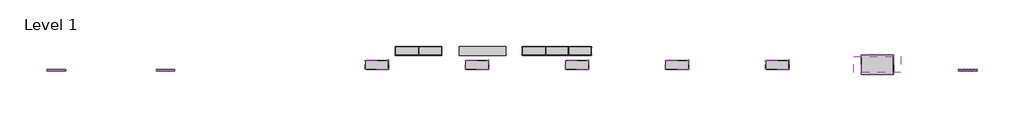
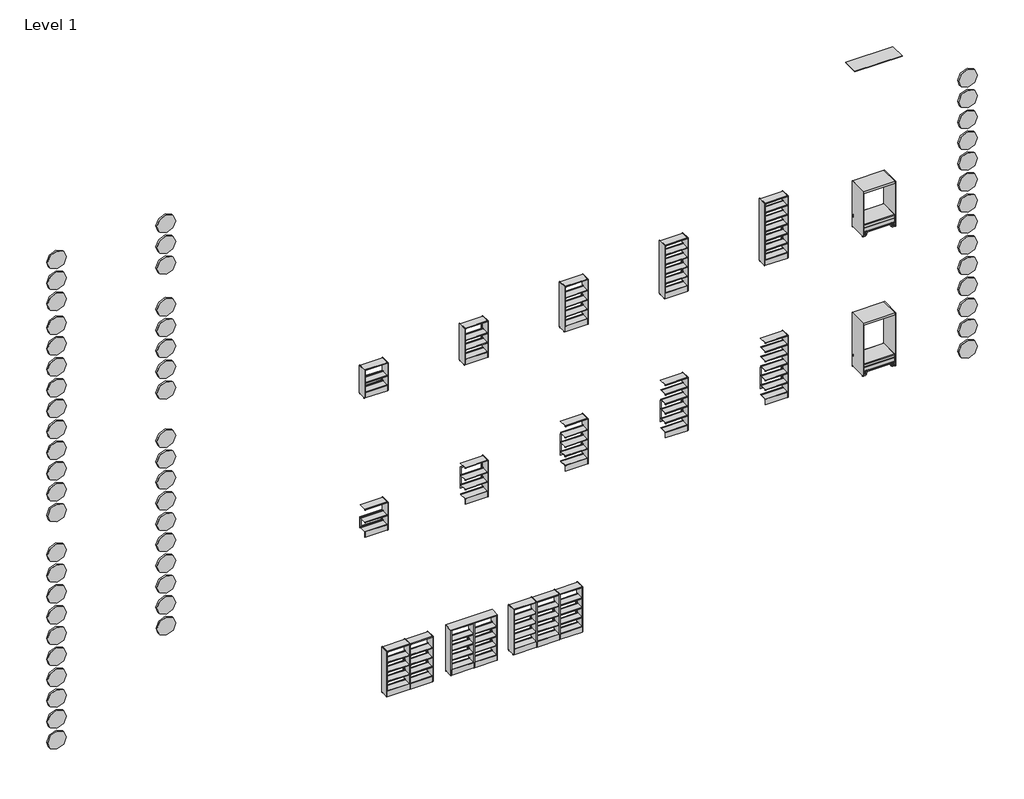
# One storey: 55 proxies, 21 furniture elements.
"""IFC4 building model written with IfcOpenShell, lengths in millimetres."""

from ifc_helpers import new_model, si_unit, origin, place, context, project, spatial, transform, mapped, element, save
from components import materialmodel_materialmodel_37012b21, furniture_c105972a, furniture_9ea05a3f, furniture_750x295_5d69b9cf, furniture_750x295_07cc5ffa, furniture_750x295_e54d80aa, furniture_750x295_18b06e9d, furniture_750x295_3e7eba69, furniture_750x295_7441573b, furniture_750x295_8a70aaf8, furniture_750x295_d1ab3b45, furniture_750x295_23b6f23a, furniture_750x295_b42d7867, bk_library_sitting_cave_to_shelf_1530_a43be609, bk_library_sitting_cave_to_shelf_1800_9197c93b

model = new_model("IFC4")

# Units and contexts
model_context = context("Model", 3, world=origin())
ifc_project = project(units=[si_unit("LENGTHUNIT", "METRE", prefix="MILLI")], contexts=[model_context])

# Site, building, storey
site = spatial("IfcSite", under=ifc_project)
building = spatial("IfcBuilding", under=site)
storey = spatial("IfcBuildingStorey", under=building, Name="Level 1", Elevation=0.0)

# Proxies
placement = place(None, origin())
materialmodel_materialmodel_shape = materialmodel_materialmodel_37012b21(model_context)
element("IfcBuildingElementProxy", 1, Name="MaterialModel : MaterialModel", ObjectType="MaterialModel : MaterialModel", at=placement, inside=storey, context=model_context, shape_type="MappedRepresentation", body=[
    mapped(materialmodel_materialmodel_shape, transform((-18567.0147555, 6390.3767321, 8420.7797695), x_axis=(1.0, 0.0, 0.0), y_axis=(0.0, 1.0, 0.0), z_axis=(0.0, 0.0, 1.0))),
])
element("IfcBuildingElementProxy", 2, Name="MaterialModel : MaterialModel", ObjectType="MaterialModel : MaterialModel", at=placement, inside=storey, context=model_context, shape_type="MappedRepresentation", body=[
    mapped(materialmodel_materialmodel_shape, transform((-18567.0147555, 6390.3767321, 9123.0950226), x_axis=(1.0, 0.0, 0.0), y_axis=(0.0, 1.0, 0.0), z_axis=(0.0, 0.0, 1.0))),
])
element("IfcBuildingElementProxy", 3, Name="MaterialModel : MaterialModel", ObjectType="MaterialModel : MaterialModel", at=placement, inside=storey, context=model_context, shape_type="MappedRepresentation", body=[
    mapped(materialmodel_materialmodel_shape, transform((-18567.0147555, 6390.3767321, 7718.4645164), x_axis=(1.0, 0.0, 0.0), y_axis=(0.0, 1.0, 0.0), z_axis=(0.0, 0.0, 1.0))),
])
element("IfcBuildingElementProxy", 4, Name="MaterialModel : MaterialModel", ObjectType="MaterialModel : MaterialModel", at=placement, inside=storey, context=model_context, shape_type="MappedRepresentation", body=[
    mapped(materialmodel_materialmodel_shape, transform((-18567.0147555, 6390.3767321, 6313.8340103), x_axis=(1.0, 0.0, 0.0), y_axis=(0.0, 1.0, 0.0), z_axis=(0.0, 0.0, 1.0))),
])
element("IfcBuildingElementProxy", 5, Name="MaterialModel : MaterialModel", ObjectType="MaterialModel : MaterialModel", at=placement, inside=storey, context=model_context, shape_type="MappedRepresentation", body=[
    mapped(materialmodel_materialmodel_shape, transform((-18567.0147555, 6390.3767321, 5611.5187572), x_axis=(1.0, 0.0, 0.0), y_axis=(0.0, 1.0, 0.0), z_axis=(0.0, 0.0, 1.0))),
])
element("IfcBuildingElementProxy", 6, Name="MaterialModel : MaterialModel", ObjectType="MaterialModel : MaterialModel", at=placement, inside=storey, context=model_context, shape_type="MappedRepresentation", body=[
    mapped(materialmodel_materialmodel_shape, transform((-18567.0147555, 6390.3767321, 4909.2035041), x_axis=(1.0, 0.0, 0.0), y_axis=(0.0, 1.0, 0.0), z_axis=(0.0, 0.0, 1.0))),
])
element("IfcBuildingElementProxy", 7, Name="MaterialModel : MaterialModel", ObjectType="MaterialModel : MaterialModel", at=placement, inside=storey, context=model_context, shape_type="MappedRepresentation", body=[
    mapped(materialmodel_materialmodel_shape, transform((-18567.0147555, 6390.3767321, 4206.888251), x_axis=(1.0, 0.0, 0.0), y_axis=(0.0, 1.0, 0.0), z_axis=(0.0, 0.0, 1.0))),
])
element("IfcBuildingElementProxy", 8, Name="MaterialModel : MaterialModel", ObjectType="MaterialModel : MaterialModel", at=placement, inside=storey, context=model_context, shape_type="MappedRepresentation", body=[
    mapped(materialmodel_materialmodel_shape, transform((-18567.0147555, 6390.3767321, 3504.5729979), x_axis=(1.0, 0.0, 0.0), y_axis=(0.0, 1.0, 0.0), z_axis=(0.0, 0.0, 1.0))),
])
element("IfcBuildingElementProxy", 9, Name="MaterialModel : MaterialModel", ObjectType="MaterialModel : MaterialModel", at=placement, inside=storey, context=model_context, shape_type="MappedRepresentation", body=[
    mapped(materialmodel_materialmodel_shape, transform((-18567.0147555, 6390.3767321, 1880.2904747), x_axis=(1.0, 0.0, 0.0), y_axis=(0.0, 1.0, 0.0), z_axis=(0.0, 0.0, 1.0))),
])
element("IfcBuildingElementProxy", 10, Name="MaterialModel : MaterialModel", ObjectType="MaterialModel : MaterialModel", at=placement, inside=storey, context=model_context, shape_type="MappedRepresentation", body=[
    mapped(materialmodel_materialmodel_shape, transform((-18567.0147555, 6390.3767321, 475.6599685), x_axis=(1.0, 0.0, 0.0), y_axis=(0.0, 1.0, 0.0), z_axis=(0.0, 0.0, 1.0))),
])
element("IfcBuildingElementProxy", 11, Name="MaterialModel : MaterialModel", ObjectType="MaterialModel : MaterialModel", at=placement, inside=storey, context=model_context, shape_type="MappedRepresentation", body=[
    mapped(materialmodel_materialmodel_shape, transform((-18567.0147555, 6390.3767321, 1177.9752216), x_axis=(1.0, 0.0, 0.0), y_axis=(0.0, 1.0, 0.0), z_axis=(0.0, 0.0, 1.0))),
])
element("IfcBuildingElementProxy", 12, Name="MaterialModel : MaterialModel", ObjectType="MaterialModel : MaterialModel", at=placement, inside=storey, context=model_context, shape_type="MappedRepresentation", body=[
    mapped(materialmodel_materialmodel_shape, transform((-18567.0147555, 6390.3767321, -928.9705377), x_axis=(1.0, 0.0, 0.0), y_axis=(0.0, 1.0, 0.0), z_axis=(0.0, 0.0, 1.0))),
])
element("IfcBuildingElementProxy", 13, Name="MaterialModel : MaterialModel", ObjectType="MaterialModel : MaterialModel", at=placement, inside=storey, context=model_context, shape_type="MappedRepresentation", body=[
    mapped(materialmodel_materialmodel_shape, transform((-18567.0147555, 6390.3767321, -226.6552846), x_axis=(1.0, 0.0, 0.0), y_axis=(0.0, 1.0, 0.0), z_axis=(0.0, 0.0, 1.0))),
])
element("IfcBuildingElementProxy", 14, Name="MaterialModel : MaterialModel", ObjectType="MaterialModel : MaterialModel", at=placement, inside=storey, context=model_context, shape_type="MappedRepresentation", body=[
    mapped(materialmodel_materialmodel_shape, transform((-18567.0147555, 6390.3767321, -2333.6010438), x_axis=(1.0, 0.0, 0.0), y_axis=(0.0, 1.0, 0.0), z_axis=(0.0, 0.0, 1.0))),
])
element("IfcBuildingElementProxy", 15, Name="MaterialModel : MaterialModel", ObjectType="MaterialModel : MaterialModel", at=placement, inside=storey, context=model_context, shape_type="MappedRepresentation", body=[
    mapped(materialmodel_materialmodel_shape, transform((-18567.0147555, 6390.3767321, -1631.2857907), x_axis=(1.0, 0.0, 0.0), y_axis=(0.0, 1.0, 0.0), z_axis=(0.0, 0.0, 1.0))),
])
element("IfcBuildingElementProxy", 16, Name="MaterialModel : MaterialModel", ObjectType="MaterialModel : MaterialModel", at=placement, inside=storey, context=model_context, shape_type="MappedRepresentation", body=[
    mapped(materialmodel_materialmodel_shape, transform((-18567.0147555, 6390.3767321, -3738.23155), x_axis=(1.0, 0.0, 0.0), y_axis=(0.0, 1.0, 0.0), z_axis=(0.0, 0.0, 1.0))),
])
element("IfcBuildingElementProxy", 17, Name="MaterialModel : MaterialModel", ObjectType="MaterialModel : MaterialModel", at=placement, inside=storey, context=model_context, shape_type="MappedRepresentation", body=[
    mapped(materialmodel_materialmodel_shape, transform((-18567.0147555, 6390.3767321, -3035.9162969), x_axis=(1.0, 0.0, 0.0), y_axis=(0.0, 1.0, 0.0), z_axis=(0.0, 0.0, 1.0))),
])
element("IfcBuildingElementProxy", 18, Name="MaterialModel : MaterialModel", ObjectType="MaterialModel : MaterialModel", at=placement, inside=storey, context=model_context, shape_type="MappedRepresentation", body=[
    mapped(materialmodel_materialmodel_shape, transform((-18562.8693038, 6390.3767321, -4440.5468031), x_axis=(1.0, 0.0, 0.0), y_axis=(0.0, 1.0, 0.0), z_axis=(0.0, 0.0, 1.0))),
])
element("IfcBuildingElementProxy", 19, Name="MaterialModel : MaterialModel", ObjectType="MaterialModel : MaterialModel", at=placement, inside=storey, context=model_context, shape_type="MappedRepresentation", body=[
    mapped(materialmodel_materialmodel_shape, transform((6997.3918806, 6390.3767321, 4380.0096307), x_axis=(1.0, 0.0, 0.0), y_axis=(0.0, 1.0, 0.0), z_axis=(0.0, 0.0, 1.0))),
])
element("IfcBuildingElementProxy", 20, Name="MaterialModel : MaterialModel", ObjectType="MaterialModel : MaterialModel", at=placement, inside=storey, context=model_context, shape_type="MappedRepresentation", body=[
    mapped(materialmodel_materialmodel_shape, transform((6997.3918806, 6390.3767321, 5082.3248837), x_axis=(1.0, 0.0, 0.0), y_axis=(0.0, 1.0, 0.0), z_axis=(0.0, 0.0, 1.0))),
])
element("IfcBuildingElementProxy", 21, Name="MaterialModel : MaterialModel", ObjectType="MaterialModel : MaterialModel", at=placement, inside=storey, context=model_context, shape_type="MappedRepresentation", body=[
    mapped(materialmodel_materialmodel_shape, transform((6997.3918806, 6390.3767321, 2975.3791245), x_axis=(1.0, 0.0, 0.0), y_axis=(0.0, 1.0, 0.0), z_axis=(0.0, 0.0, 1.0))),
])
element("IfcBuildingElementProxy", 22, Name="MaterialModel : MaterialModel", ObjectType="MaterialModel : MaterialModel", at=placement, inside=storey, context=model_context, shape_type="MappedRepresentation", body=[
    mapped(materialmodel_materialmodel_shape, transform((6997.3918806, 6390.3767321, 3677.6943776), x_axis=(1.0, 0.0, 0.0), y_axis=(0.0, 1.0, 0.0), z_axis=(0.0, 0.0, 1.0))),
])
element("IfcBuildingElementProxy", 23, Name="MaterialModel : MaterialModel", ObjectType="MaterialModel : MaterialModel", at=placement, inside=storey, context=model_context, shape_type="MappedRepresentation", body=[
    mapped(materialmodel_materialmodel_shape, transform((6997.3918806, 6390.3767321, 1570.7486183), x_axis=(1.0, 0.0, 0.0), y_axis=(0.0, 1.0, 0.0), z_axis=(0.0, 0.0, 1.0))),
])
element("IfcBuildingElementProxy", 24, Name="MaterialModel : MaterialModel", ObjectType="MaterialModel : MaterialModel", at=placement, inside=storey, context=model_context, shape_type="MappedRepresentation", body=[
    mapped(materialmodel_materialmodel_shape, transform((6997.3918806, 6390.3767321, 2273.0638714), x_axis=(1.0, 0.0, 0.0), y_axis=(0.0, 1.0, 0.0), z_axis=(0.0, 0.0, 1.0))),
])
element("IfcBuildingElementProxy", 25, Name="MaterialModel : MaterialModel", ObjectType="MaterialModel : MaterialModel", at=placement, inside=storey, context=model_context, shape_type="MappedRepresentation", body=[
    mapped(materialmodel_materialmodel_shape, transform((6997.3918806, 6390.3767321, 857.8970235), x_axis=(1.0, 0.0, 0.0), y_axis=(0.0, 1.0, 0.0), z_axis=(0.0, 0.0, 1.0))),
])
element("IfcBuildingElementProxy", 26, Name="MaterialModel : MaterialModel", ObjectType="MaterialModel : MaterialModel", at=placement, inside=storey, context=model_context, shape_type="MappedRepresentation", body=[
    mapped(materialmodel_materialmodel_shape, transform((6997.3918806, 6390.3767321, -546.7334827), x_axis=(1.0, 0.0, 0.0), y_axis=(0.0, 1.0, 0.0), z_axis=(0.0, 0.0, 1.0))),
])
element("IfcBuildingElementProxy", 27, Name="MaterialModel : MaterialModel", ObjectType="MaterialModel : MaterialModel", at=placement, inside=storey, context=model_context, shape_type="MappedRepresentation", body=[
    mapped(materialmodel_materialmodel_shape, transform((6997.3918806, 6390.3767321, 155.5817704), x_axis=(1.0, 0.0, 0.0), y_axis=(0.0, 1.0, 0.0), z_axis=(0.0, 0.0, 1.0))),
])
element("IfcBuildingElementProxy", 28, Name="MaterialModel : MaterialModel", ObjectType="MaterialModel : MaterialModel", at=placement, inside=storey, context=model_context, shape_type="MappedRepresentation", body=[
    mapped(materialmodel_materialmodel_shape, transform((6997.3918806, 6390.3767321, -1951.3639888), x_axis=(1.0, 0.0, 0.0), y_axis=(0.0, 1.0, 0.0), z_axis=(0.0, 0.0, 1.0))),
])
element("IfcBuildingElementProxy", 29, Name="MaterialModel : MaterialModel", ObjectType="MaterialModel : MaterialModel", at=placement, inside=storey, context=model_context, shape_type="MappedRepresentation", body=[
    mapped(materialmodel_materialmodel_shape, transform((6997.3918806, 6390.3767321, -1249.0487358), x_axis=(1.0, 0.0, 0.0), y_axis=(0.0, 1.0, 0.0), z_axis=(0.0, 0.0, 1.0))),
])
element("IfcBuildingElementProxy", 30, Name="MaterialModel : MaterialModel", ObjectType="MaterialModel : MaterialModel", at=placement, inside=storey, context=model_context, shape_type="MappedRepresentation", body=[
    mapped(materialmodel_materialmodel_shape, transform((6997.3918806, 6390.3767321, -3355.994495), x_axis=(1.0, 0.0, 0.0), y_axis=(0.0, 1.0, 0.0), z_axis=(0.0, 0.0, 1.0))),
])
element("IfcBuildingElementProxy", 31, Name="MaterialModel : MaterialModel", ObjectType="MaterialModel : MaterialModel", at=placement, inside=storey, context=model_context, shape_type="MappedRepresentation", body=[
    mapped(materialmodel_materialmodel_shape, transform((6997.3918806, 6390.3767321, -2653.6792419), x_axis=(1.0, 0.0, 0.0), y_axis=(0.0, 1.0, 0.0), z_axis=(0.0, 0.0, 1.0))),
])
element("IfcBuildingElementProxy", 32, Name="MaterialModel : MaterialModel", ObjectType="MaterialModel : MaterialModel", at=placement, inside=storey, context=model_context, shape_type="MappedRepresentation", body=[
    mapped(materialmodel_materialmodel_shape, transform((7001.5373322, 6390.3767321, -4058.3097481), x_axis=(1.0, 0.0, 0.0), y_axis=(0.0, 1.0, 0.0), z_axis=(0.0, 0.0, 1.0))),
])
element("IfcBuildingElementProxy", 33, Name="MaterialModel : MaterialModel", ObjectType="MaterialModel : MaterialModel", at=placement, inside=storey, context=model_context, shape_type="MappedRepresentation", body=[
    mapped(materialmodel_materialmodel_shape, transform((-22054.7019973, 6390.3767321, -742.9434338), x_axis=(1.0, 0.0, 0.0), y_axis=(0.0, 1.0, 0.0), z_axis=(0.0, 0.0, 1.0))),
])
element("IfcBuildingElementProxy", 34, Name="MaterialModel : MaterialModel", ObjectType="MaterialModel : MaterialModel", at=placement, inside=storey, context=model_context, shape_type="MappedRepresentation", body=[
    mapped(materialmodel_materialmodel_shape, transform((-22054.7019973, 6390.3767321, -2147.57394), x_axis=(1.0, 0.0, 0.0), y_axis=(0.0, 1.0, 0.0), z_axis=(0.0, 0.0, 1.0))),
])
element("IfcBuildingElementProxy", 35, Name="MaterialModel : MaterialModel", ObjectType="MaterialModel : MaterialModel", at=placement, inside=storey, context=model_context, shape_type="MappedRepresentation", body=[
    mapped(materialmodel_materialmodel_shape, transform((-22054.7019973, 6390.3767321, -1445.2586869), x_axis=(1.0, 0.0, 0.0), y_axis=(0.0, 1.0, 0.0), z_axis=(0.0, 0.0, 1.0))),
])
element("IfcBuildingElementProxy", 36, Name="MaterialModel : MaterialModel", ObjectType="MaterialModel : MaterialModel", at=placement, inside=storey, context=model_context, shape_type="MappedRepresentation", body=[
    mapped(materialmodel_materialmodel_shape, transform((-22054.7019973, 6390.3767321, -3552.2044461), x_axis=(1.0, 0.0, 0.0), y_axis=(0.0, 1.0, 0.0), z_axis=(0.0, 0.0, 1.0))),
])
element("IfcBuildingElementProxy", 37, Name="MaterialModel : MaterialModel", ObjectType="MaterialModel : MaterialModel", at=placement, inside=storey, context=model_context, shape_type="MappedRepresentation", body=[
    mapped(materialmodel_materialmodel_shape, transform((-22054.7019973, 6390.3767321, -2849.8891931), x_axis=(1.0, 0.0, 0.0), y_axis=(0.0, 1.0, 0.0), z_axis=(0.0, 0.0, 1.0))),
])
element("IfcBuildingElementProxy", 38, Name="MaterialModel : MaterialModel", ObjectType="MaterialModel : MaterialModel", at=placement, inside=storey, context=model_context, shape_type="MappedRepresentation", body=[
    mapped(materialmodel_materialmodel_shape, transform((-22054.7019973, 6390.3767321, -4956.8349523), x_axis=(1.0, 0.0, 0.0), y_axis=(0.0, 1.0, 0.0), z_axis=(0.0, 0.0, 1.0))),
])
element("IfcBuildingElementProxy", 39, Name="MaterialModel : MaterialModel", ObjectType="MaterialModel : MaterialModel", at=placement, inside=storey, context=model_context, shape_type="MappedRepresentation", body=[
    mapped(materialmodel_materialmodel_shape, transform((-22054.7019973, 6390.3767321, -4254.5196992), x_axis=(1.0, 0.0, 0.0), y_axis=(0.0, 1.0, 0.0), z_axis=(0.0, 0.0, 1.0))),
])
element("IfcBuildingElementProxy", 40, Name="MaterialModel : MaterialModel", ObjectType="MaterialModel : MaterialModel", at=placement, inside=storey, context=model_context, shape_type="MappedRepresentation", body=[
    mapped(materialmodel_materialmodel_shape, transform((-22054.7019973, 6390.3767321, -6361.4654585), x_axis=(1.0, 0.0, 0.0), y_axis=(0.0, 1.0, 0.0), z_axis=(0.0, 0.0, 1.0))),
])
element("IfcBuildingElementProxy", 41, Name="MaterialModel : MaterialModel", ObjectType="MaterialModel : MaterialModel", at=placement, inside=storey, context=model_context, shape_type="MappedRepresentation", body=[
    mapped(materialmodel_materialmodel_shape, transform((-22054.7019973, 6390.3767321, -5659.1502054), x_axis=(1.0, 0.0, 0.0), y_axis=(0.0, 1.0, 0.0), z_axis=(0.0, 0.0, 1.0))),
])
element("IfcBuildingElementProxy", 42, Name="MaterialModel : MaterialModel", ObjectType="MaterialModel : MaterialModel", at=placement, inside=storey, context=model_context, shape_type="MappedRepresentation", body=[
    mapped(materialmodel_materialmodel_shape, transform((-22050.5565457, 6390.3767321, -7063.7807116), x_axis=(1.0, 0.0, 0.0), y_axis=(0.0, 1.0, 0.0), z_axis=(0.0, 0.0, 1.0))),
])
element("IfcBuildingElementProxy", 43, Name="MaterialModel : MaterialModel", ObjectType="MaterialModel : MaterialModel", at=placement, inside=storey, context=model_context, shape_type="MappedRepresentation", body=[
    mapped(materialmodel_materialmodel_shape, transform((-22054.7019973, 6390.3767321, 8420.7797695), x_axis=(1.0, 0.0, 0.0), y_axis=(0.0, 1.0, 0.0), z_axis=(0.0, 0.0, 1.0))),
])
element("IfcBuildingElementProxy", 44, Name="MaterialModel : MaterialModel", ObjectType="MaterialModel : MaterialModel", at=placement, inside=storey, context=model_context, shape_type="MappedRepresentation", body=[
    mapped(materialmodel_materialmodel_shape, transform((-22054.7019973, 6390.3767321, 9123.0950226), x_axis=(1.0, 0.0, 0.0), y_axis=(0.0, 1.0, 0.0), z_axis=(0.0, 0.0, 1.0))),
])
element("IfcBuildingElementProxy", 45, Name="MaterialModel : MaterialModel", ObjectType="MaterialModel : MaterialModel", at=placement, inside=storey, context=model_context, shape_type="MappedRepresentation", body=[
    mapped(materialmodel_materialmodel_shape, transform((-22054.7019973, 6390.3767321, 6913.8340103), x_axis=(1.0, 0.0, 0.0), y_axis=(0.0, 1.0, 0.0), z_axis=(0.0, 0.0, 1.0))),
])
element("IfcBuildingElementProxy", 46, Name="MaterialModel : MaterialModel", ObjectType="MaterialModel : MaterialModel", at=placement, inside=storey, context=model_context, shape_type="MappedRepresentation", body=[
    mapped(materialmodel_materialmodel_shape, transform((-22054.7019973, 6390.3767321, 7718.4645164), x_axis=(1.0, 0.0, 0.0), y_axis=(0.0, 1.0, 0.0), z_axis=(0.0, 0.0, 1.0))),
])
element("IfcBuildingElementProxy", 47, Name="MaterialModel : MaterialModel", ObjectType="MaterialModel : MaterialModel", at=placement, inside=storey, context=model_context, shape_type="MappedRepresentation", body=[
    mapped(materialmodel_materialmodel_shape, transform((-22054.7019973, 6390.3767321, 5509.2035041), x_axis=(1.0, 0.0, 0.0), y_axis=(0.0, 1.0, 0.0), z_axis=(0.0, 0.0, 1.0))),
])
element("IfcBuildingElementProxy", 48, Name="MaterialModel : MaterialModel", ObjectType="MaterialModel : MaterialModel", at=placement, inside=storey, context=model_context, shape_type="MappedRepresentation", body=[
    mapped(materialmodel_materialmodel_shape, transform((-22054.7019973, 6390.3767321, 6211.5187572), x_axis=(1.0, 0.0, 0.0), y_axis=(0.0, 1.0, 0.0), z_axis=(0.0, 0.0, 1.0))),
])
element("IfcBuildingElementProxy", 49, Name="MaterialModel : MaterialModel", ObjectType="MaterialModel : MaterialModel", at=placement, inside=storey, context=model_context, shape_type="MappedRepresentation", body=[
    mapped(materialmodel_materialmodel_shape, transform((-22054.7019973, 6390.3767321, 4104.5729979), x_axis=(1.0, 0.0, 0.0), y_axis=(0.0, 1.0, 0.0), z_axis=(0.0, 0.0, 1.0))),
])
element("IfcBuildingElementProxy", 50, Name="MaterialModel : MaterialModel", ObjectType="MaterialModel : MaterialModel", at=placement, inside=storey, context=model_context, shape_type="MappedRepresentation", body=[
    mapped(materialmodel_materialmodel_shape, transform((-22054.7019973, 6390.3767321, 4806.888251), x_axis=(1.0, 0.0, 0.0), y_axis=(0.0, 1.0, 0.0), z_axis=(0.0, 0.0, 1.0))),
])
element("IfcBuildingElementProxy", 51, Name="MaterialModel : MaterialModel", ObjectType="MaterialModel : MaterialModel", at=placement, inside=storey, context=model_context, shape_type="MappedRepresentation", body=[
    mapped(materialmodel_materialmodel_shape, transform((-22054.7019973, 6390.3767321, 2699.9424918), x_axis=(1.0, 0.0, 0.0), y_axis=(0.0, 1.0, 0.0), z_axis=(0.0, 0.0, 1.0))),
])
element("IfcBuildingElementProxy", 52, Name="MaterialModel : MaterialModel", ObjectType="MaterialModel : MaterialModel", at=placement, inside=storey, context=model_context, shape_type="MappedRepresentation", body=[
    mapped(materialmodel_materialmodel_shape, transform((-22054.7019973, 6390.3767321, 3402.2577448), x_axis=(1.0, 0.0, 0.0), y_axis=(0.0, 1.0, 0.0), z_axis=(0.0, 0.0, 1.0))),
])
element("IfcBuildingElementProxy", 53, Name="MaterialModel : MaterialModel", ObjectType="MaterialModel : MaterialModel", at=placement, inside=storey, context=model_context, shape_type="MappedRepresentation", body=[
    mapped(materialmodel_materialmodel_shape, transform((-22054.7019973, 6390.3767321, 1295.3119856), x_axis=(1.0, 0.0, 0.0), y_axis=(0.0, 1.0, 0.0), z_axis=(0.0, 0.0, 1.0))),
])
element("IfcBuildingElementProxy", 54, Name="MaterialModel : MaterialModel", ObjectType="MaterialModel : MaterialModel", at=placement, inside=storey, context=model_context, shape_type="MappedRepresentation", body=[
    mapped(materialmodel_materialmodel_shape, transform((-22054.7019973, 6390.3767321, 1997.6272387), x_axis=(1.0, 0.0, 0.0), y_axis=(0.0, 1.0, 0.0), z_axis=(0.0, 0.0, 1.0))),
])
element("IfcBuildingElementProxy", 55, Name="MaterialModel : MaterialModel", ObjectType="MaterialModel : MaterialModel", at=placement, inside=storey, context=model_context, shape_type="MappedRepresentation", body=[
    mapped(materialmodel_materialmodel_shape, transform((-22050.5565457, 6390.3767321, 592.9967325), x_axis=(1.0, 0.0, 0.0), y_axis=(0.0, 1.0, 0.0), z_axis=(0.0, 0.0, 1.0))),
])

# Furniture
furniture_shape = furniture_c105972a(model_context)
element("IfcFurniture", 56, ObjectType="BK Library - Top Plate - HYOT : BK Library - Top Plate - HYOT", at=placement, inside=storey, context=model_context, shape_type="MappedRepresentation", body=[
    mapped(furniture_shape, transform((4114.2119494, 6539.3767164, 6909.8618302), x_axis=(1.0, 0.0, 0.0), y_axis=(0.0, 1.0, 0.0), z_axis=(0.0, 0.0, 1.0))),
])
furniture_2_shape = furniture_9ea05a3f(model_context)
element("IfcFurniture", 57, ObjectType="BK Library - Top Plate - HYOT : BK Library - Top Plate - HYOT", at=placement, inside=storey, context=model_context, shape_type="MappedRepresentation", body=[
    mapped(furniture_2_shape, transform((-8461.2134818, 6981.3401314, -7860.5), x_axis=(1.0, 0.0, 0.0), y_axis=(0.0, 1.0, 0.0), z_axis=(0.0, 0.0, 1.0))),
])
furniture_750x295_shape = furniture_750x295_5d69b9cf(model_context)
element("IfcFurniture", 58, ObjectType="BK Library - Rondus ES - 2100 : 750x295", at=placement, inside=storey, context=model_context, shape_type="MappedRepresentation", body=[
    mapped(furniture_750x295_shape, transform((924.1302204, 6539.3767164, 1273.9383366), x_axis=(1.0, 0.0, 0.0), y_axis=(0.0, 1.0, 0.0), z_axis=(0.0, 0.0, 1.0))),
])
furniture_750x295_2_shape = furniture_750x295_07cc5ffa(model_context)
element("IfcFurniture", 59, ObjectType="BK Library - Rondus ES - 1800 : 750x295", at=placement, inside=storey, context=model_context, shape_type="MappedRepresentation", body=[
    mapped(furniture_750x295_2_shape, transform((-2265.8697796, 6539.3767164, 1273.9383366), x_axis=(1.0, 0.0, 0.0), y_axis=(0.0, 1.0, 0.0), z_axis=(0.0, 0.0, 1.0))),
])
furniture_750x295_3_shape = furniture_750x295_e54d80aa(model_context)
element("IfcFurniture", 60, ObjectType="BK Library - Rondus ES - 1530 : 750x295", at=placement, inside=storey, context=model_context, shape_type="MappedRepresentation", body=[
    mapped(furniture_750x295_3_shape, transform((-10871.1347342, 6981.3401314, -9400.0), x_axis=(1.0, 0.0, 0.0), y_axis=(0.0, 1.0, 0.0), z_axis=(0.0, 0.0, 1.0))),
])
element("IfcFurniture", 61, ObjectType="BK Library - Rondus ES - 1530 : 750x295", at=placement, inside=storey, context=model_context, shape_type="MappedRepresentation", body=[
    mapped(furniture_750x295_3_shape, transform((-6831.1347342, 6981.3401314, -9400.0), x_axis=(1.0, 0.0, 0.0), y_axis=(0.0, 1.0, 0.0), z_axis=(0.0, 0.0, 1.0))),
])
element("IfcFurniture", 62, ObjectType="BK Library - Rondus ES - 1530 : 750x295", at=placement, inside=storey, context=model_context, shape_type="MappedRepresentation", body=[
    mapped(furniture_750x295_3_shape, transform((-5455.8697796, 6539.3767164, 1273.9383366), x_axis=(1.0, 0.0, 0.0), y_axis=(0.0, 1.0, 0.0), z_axis=(0.0, 0.0, 1.0))),
])
element("IfcFurniture", 63, ObjectType="BK Library - Rondus ES - 1530 : 750x295", at=placement, inside=storey, context=model_context, shape_type="MappedRepresentation", body=[
    mapped(furniture_750x295_3_shape, transform((-8826.7134818, 6981.3401314, -9400.0), x_axis=(1.0, 0.0, 0.0), y_axis=(0.0, 1.0, 0.0), z_axis=(0.0, 0.0, 1.0))),
])
furniture_750x295_4_shape = furniture_750x295_18b06e9d(model_context)
element("IfcFurniture", 64, ObjectType="BK Library - Rondus ES - 1240 : 750x295", at=placement, inside=storey, context=model_context, shape_type="MappedRepresentation", body=[
    mapped(furniture_750x295_4_shape, transform((-8645.8697796, 6539.3767164, 1273.9383366), x_axis=(1.0, 0.0, 0.0), y_axis=(0.0, 1.0, 0.0), z_axis=(0.0, 0.0, 1.0))),
])
furniture_750x295_5_shape = furniture_750x295_3e7eba69(model_context)
element("IfcFurniture", 65, ObjectType="BK Library - Rondus ES - 950 : 750x295", at=placement, inside=storey, context=model_context, shape_type="MappedRepresentation", body=[
    mapped(furniture_750x295_5_shape, transform((-11835.8697796, 6539.3767164, 1273.9383366), x_axis=(1.0, 0.0, 0.0), y_axis=(0.0, 1.0, 0.0), z_axis=(0.0, 0.0, 1.0))),
])
furniture_750x295_6_shape = furniture_750x295_7441573b(model_context)
element("IfcFurniture", 66, ObjectType="BK Library - Rondus EF - 2100 : 750x295", at=placement, inside=storey, context=model_context, shape_type="MappedRepresentation", body=[
    mapped(furniture_750x295_6_shape, transform((924.1302204, 6539.3767164, -3426.0616634), x_axis=(1.0, 0.0, 0.0), y_axis=(0.0, 1.0, 0.0), z_axis=(0.0, 0.0, 1.0))),
])
furniture_750x295_7_shape = furniture_750x295_8a70aaf8(model_context)
element("IfcFurniture", 67, ObjectType="BK Library - Rondus EF - 1800 : 750x295", at=placement, inside=storey, context=model_context, shape_type="MappedRepresentation", body=[
    mapped(furniture_750x295_7_shape, transform((-2265.8697796, 6539.3767164, -3426.0616634), x_axis=(1.0, 0.0, 0.0), y_axis=(0.0, 1.0, 0.0), z_axis=(0.0, 0.0, 1.0))),
])
furniture_750x295_8_shape = furniture_750x295_d1ab3b45(model_context)
element("IfcFurniture", 68, ObjectType="BK Library - Rondus EF - 1530 : 750x295", at=placement, inside=storey, context=model_context, shape_type="MappedRepresentation", body=[
    mapped(furniture_750x295_8_shape, transform((-10140.1347342, 6981.3401314, -9400.0), x_axis=(1.0, 0.0, 0.0), y_axis=(0.0, 1.0, 0.0), z_axis=(0.0, 0.0, 1.0))),
])
element("IfcFurniture", 69, ObjectType="BK Library - Rondus EF - 1530 : 750x295", at=placement, inside=storey, context=model_context, shape_type="MappedRepresentation", body=[
    mapped(furniture_750x295_8_shape, transform((-6100.1347342, 6981.3401314, -9400.0), x_axis=(1.0, 0.0, 0.0), y_axis=(0.0, 1.0, 0.0), z_axis=(0.0, 0.0, 1.0))),
])
element("IfcFurniture", 70, ObjectType="BK Library - Rondus EF - 1530 : 750x295", at=placement, inside=storey, context=model_context, shape_type="MappedRepresentation", body=[
    mapped(furniture_750x295_8_shape, transform((-5369.1347342, 6981.3401314, -9400.0), x_axis=(1.0, 0.0, 0.0), y_axis=(0.0, 1.0, 0.0), z_axis=(0.0, 0.0, 1.0))),
])
element("IfcFurniture", 71, ObjectType="BK Library - Rondus EF - 1530 : 750x295", at=placement, inside=storey, context=model_context, shape_type="MappedRepresentation", body=[
    mapped(furniture_750x295_8_shape, transform((-5455.8697796, 6539.3767164, -3426.0616634), x_axis=(1.0, 0.0, 0.0), y_axis=(0.0, 1.0, 0.0), z_axis=(0.0, 0.0, 1.0))),
])
element("IfcFurniture", 72, ObjectType="BK Library - Rondus EF - 1530 : 750x295", at=placement, inside=storey, context=model_context, shape_type="MappedRepresentation", body=[
    mapped(furniture_750x295_8_shape, transform((-8095.7134818, 6981.3401314, -9400.0), x_axis=(1.0, 0.0, 0.0), y_axis=(0.0, 1.0, 0.0), z_axis=(0.0, 0.0, 1.0))),
])
furniture_750x295_9_shape = furniture_750x295_23b6f23a(model_context)
element("IfcFurniture", 73, ObjectType="BK Library - Rondus EF - 1240 : 750x295", at=placement, inside=storey, context=model_context, shape_type="MappedRepresentation", body=[
    mapped(furniture_750x295_9_shape, transform((-8645.8697796, 6539.3767164, -3426.0616634), x_axis=(1.0, 0.0, 0.0), y_axis=(0.0, 1.0, 0.0), z_axis=(0.0, 0.0, 1.0))),
])
furniture_750x295_10_shape = furniture_750x295_b42d7867(model_context)
element("IfcFurniture", 74, ObjectType="BK Library - Rondus EF - 950 : 750x295", at=placement, inside=storey, context=model_context, shape_type="MappedRepresentation", body=[
    mapped(furniture_750x295_10_shape, transform((-11835.8697796, 6539.3767164, -3426.0616634), x_axis=(1.0, 0.0, 0.0), y_axis=(0.0, 1.0, 0.0), z_axis=(0.0, 0.0, 1.0))),
])
bk_library_sitting_cave_to_shelf_1530_shape = bk_library_sitting_cave_to_shelf_1530_a43be609(model_context)
element("IfcFurniture", 75, ObjectType="BK Library - Sitting Cave to Shelf : 1530", at=placement, inside=storey, context=model_context, shape_type="MappedRepresentation", body=[
    mapped(bk_library_sitting_cave_to_shelf_1530_shape, transform((4114.1302204, 6539.3767164, 1273.9383366), x_axis=(1.0, 0.0, 0.0), y_axis=(0.0, 1.0, 0.0), z_axis=(0.0, 0.0, 1.0))),
])
bk_library_sitting_cave_to_shelf_1800_shape = bk_library_sitting_cave_to_shelf_1800_9197c93b(model_context)
element("IfcFurniture", 76, ObjectType="BK Library - Sitting Cave to Shelf : 1800", at=placement, inside=storey, context=model_context, shape_type="MappedRepresentation", body=[
    mapped(bk_library_sitting_cave_to_shelf_1800_shape, transform((4114.1302204, 6539.3767164, -3426.0616634), x_axis=(1.0, 0.0, 0.0), y_axis=(0.0, 1.0, 0.0), z_axis=(0.0, 0.0, 1.0))),
])

save(model, "model.ifc")
